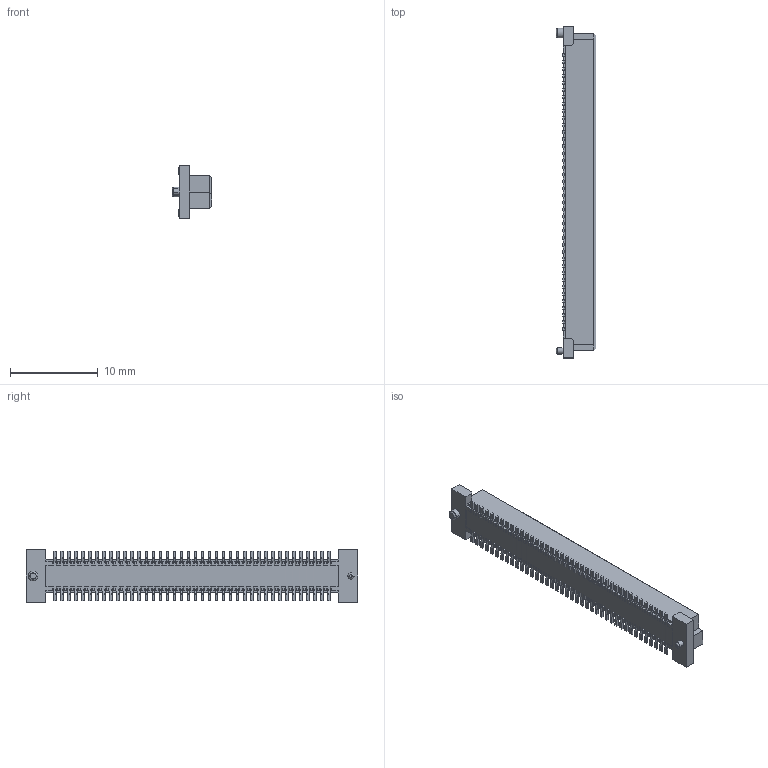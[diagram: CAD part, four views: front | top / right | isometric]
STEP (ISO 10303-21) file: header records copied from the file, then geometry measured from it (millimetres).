
FILE_DESCRIPTION((''),'2;1');
FILE_NAME('80-1','2021-03-11T',('k94269'),(''),'PRO/ENGINEER BY PARAMETRIC TECHNOLOGY CORPORATION, 2015070','PRO/ENGINEER BY PARAMETRIC TECHNOLOGY CORPORATION, 2015070','');
FILE_SCHEMA(('CONFIG_CONTROL_DESIGN','SHAPE_APPEARANCE_LAYERS_GROUPS'));
Products named in the file (1): 80-1
Bounding box: 4.55 x 37.8 x 6 mm (x, y, z)
Volume: 374.9 mm3; surface area: 1350.1 mm2
Topology: 1 solids, 1 shells, 4385 faces, 12248 edges, 7868 vertices
Faces by surface type: plane 3257, cylinder 964, bspline 162, torus 2
Entity records: 163167 total; most frequent: CARTESIAN_POINT 35114, ORIENTED_EDGE 24496, DIRECTION 20954, EDGE_CURVE 12248, VECTOR 9588, LINE 9588, VERTEX_POINT 7868, AXIS2_PLACEMENT_3D 5683
